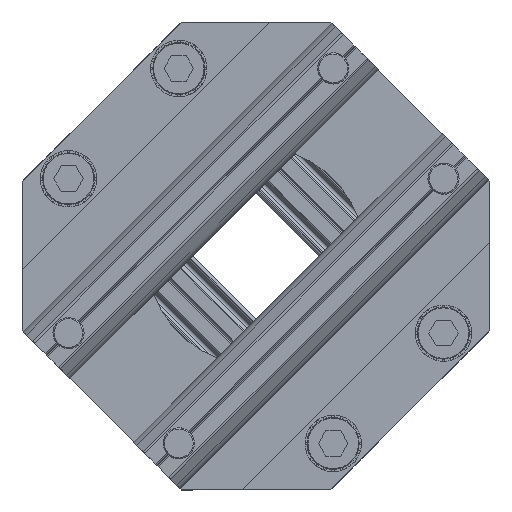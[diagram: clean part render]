
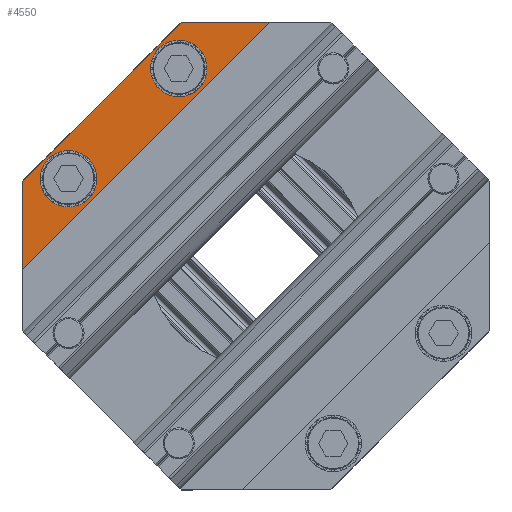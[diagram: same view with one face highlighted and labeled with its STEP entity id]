
A CAD part, top view. The second image highlights one B-rep face of the part: STEP entity #4550.
In plain terms, the highlighted planar face has unit normal (0, 0, 1).
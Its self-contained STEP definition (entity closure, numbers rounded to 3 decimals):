
#155 = FACE_OUTER_BOUND ( 'NONE', #4343, .T. ) ;
#446 = CARTESIAN_POINT ( 'NONE',  ( -117.318, 0., 30.129 ) ) ;
#472 = AXIS2_PLACEMENT_3D ( 'NONE', #6010, #9255, #8552 ) ;
#903 = ORIENTED_EDGE ( 'NONE', *, *, #1196, .T. ) ;
#916 = VERTEX_POINT ( 'NONE', #1202 ) ;
#927 = ORIENTED_EDGE ( 'NONE', *, *, #8289, .T. ) ;
#1196 = EDGE_CURVE ( 'NONE', #4296, #3895, #8376, .T. ) ;
#1202 = CARTESIAN_POINT ( 'NONE',  ( -117.318, 35.533, 30.129 ) ) ;
#1255 = ORIENTED_EDGE ( 'NONE', *, *, #4729, .T. ) ;
#1260 = EDGE_CURVE ( 'NONE', #4821, #1359, #8149, .T. ) ;
#1275 = DIRECTION ( 'NONE',  ( 0., 0., -1. ) ) ;
#1340 = EDGE_LOOP ( 'NONE', ( #927, #4663 ) ) ;
#1359 = VERTEX_POINT ( 'NONE', #4084 ) ;
#1398 = CARTESIAN_POINT ( 'NONE',  ( -77.673, 61.036, 30.129 ) ) ;
#1602 = EDGE_CURVE ( 'NONE', #916, #1359, #5089, .T. ) ;
#1701 = CARTESIAN_POINT ( 'NONE',  ( -112.42, 35.91, 30.129 ) ) ;
#1885 = FACE_BOUND ( 'NONE', #1340, .T. ) ;
#2214 = LINE ( 'NONE', #5494, #7918 ) ;
#2346 = VERTEX_POINT ( 'NONE', #4395 ) ;
#2725 = DIRECTION ( 'NONE',  ( 0., 0., -1. ) ) ;
#2804 = LINE ( 'NONE', #8560, #6520 ) ;
#2822 = CARTESIAN_POINT ( 'NONE',  ( -89.642, 53.588, 30.129 ) ) ;
#3062 = VERTEX_POINT ( 'NONE', #2822 ) ;
#3246 = EDGE_CURVE ( 'NONE', #3774, #916, #2804, .T. ) ;
#3369 = AXIS2_PLACEMENT_3D ( 'NONE', #3813, #2725, #5988 ) ;
#3424 = ORIENTED_EDGE ( 'NONE', *, *, #3246, .T. ) ;
#3717 = VECTOR ( 'NONE', #4300, 1000. ) ;
#3774 = VERTEX_POINT ( 'NONE', #6730 ) ;
#3813 = CARTESIAN_POINT ( 'NONE',  ( -109.87, 35.91, 30.129 ) ) ;
#3854 = AXIS2_PLACEMENT_3D ( 'NONE', #7459, #7716, #5860 ) ;
#3895 = VERTEX_POINT ( 'NONE', #7775 ) ;
#3936 = EDGE_CURVE ( 'NONE', #3895, #4296, #7462, .T. ) ;
#4084 = CARTESIAN_POINT ( 'NONE',  ( -117.318, 21.391, 30.129 ) ) ;
#4296 = VERTEX_POINT ( 'NONE', #1701 ) ;
#4300 = DIRECTION ( 'NONE',  ( -0.707, -0.707, 0. ) ) ;
#4343 = EDGE_LOOP ( 'NONE', ( #3424, #7492, #5060, #1255 ) ) ;
#4395 = CARTESIAN_POINT ( 'NONE',  ( -94.742, 53.588, 30.129 ) ) ;
#4550 = ADVANCED_FACE ( 'NONE', ( #5814, #1885, #155 ), #4809, .T. ) ;
#4663 = ORIENTED_EDGE ( 'NONE', *, *, #4780, .T. ) ;
#4729 = EDGE_CURVE ( 'NONE', #4821, #3774, #2214, .T. ) ;
#4780 = EDGE_CURVE ( 'NONE', #3062, #2346, #7675, .T. ) ;
#4809 = PLANE ( 'NONE',  #3854 ) ;
#4821 = VERTEX_POINT ( 'NONE', #1398 ) ;
#4862 = VECTOR ( 'NONE', #8666, 1000. ) ;
#5060 = ORIENTED_EDGE ( 'NONE', *, *, #1260, .F. ) ;
#5089 = LINE ( 'NONE', #446, #4862 ) ;
#5298 = DIRECTION ( 'NONE',  ( -1., 0., 0. ) ) ;
#5494 = CARTESIAN_POINT ( 'NONE',  ( 0., 61.036, 30.129 ) ) ;
#5660 = AXIS2_PLACEMENT_3D ( 'NONE', #8497, #8945, #5298 ) ;
#5684 = CARTESIAN_POINT ( 'NONE',  ( -92.192, 53.588, 30.129 ) ) ;
#5814 = FACE_BOUND ( 'NONE', #6118, .T. ) ;
#5860 = DIRECTION ( 'NONE',  ( 1., 0., 0. ) ) ;
#5988 = DIRECTION ( 'NONE',  ( -1., 0., 0. ) ) ;
#6010 = CARTESIAN_POINT ( 'NONE',  ( -109.87, 35.91, 30.129 ) ) ;
#6118 = EDGE_LOOP ( 'NONE', ( #903, #8653 ) ) ;
#6430 = DIRECTION ( 'NONE',  ( -1., 0., 0. ) ) ;
#6520 = VECTOR ( 'NONE', #9320, 1000. ) ;
#6730 = CARTESIAN_POINT ( 'NONE',  ( -91.815, 61.036, 30.129 ) ) ;
#6955 = DIRECTION ( 'NONE',  ( -1., 0., 0. ) ) ;
#7459 = CARTESIAN_POINT ( 'NONE',  ( 0., 0., 30.129 ) ) ;
#7462 = CIRCLE ( 'NONE', #472, 2.55 ) ;
#7492 = ORIENTED_EDGE ( 'NONE', *, *, #1602, .T. ) ;
#7675 = CIRCLE ( 'NONE', #5660, 2.55 ) ;
#7716 = DIRECTION ( 'NONE',  ( 0., 0., 1. ) ) ;
#7775 = CARTESIAN_POINT ( 'NONE',  ( -107.32, 35.91, 30.129 ) ) ;
#7879 = CIRCLE ( 'NONE', #8589, 2.55 ) ;
#7918 = VECTOR ( 'NONE', #6955, 1000. ) ;
#8149 = LINE ( 'NONE', #8698, #3717 ) ;
#8289 = EDGE_CURVE ( 'NONE', #2346, #3062, #7879, .T. ) ;
#8376 = CIRCLE ( 'NONE', #3369, 2.55 ) ;
#8497 = CARTESIAN_POINT ( 'NONE',  ( -92.192, 53.588, 30.129 ) ) ;
#8552 = DIRECTION ( 'NONE',  ( -1., 0., 0. ) ) ;
#8560 = CARTESIAN_POINT ( 'NONE',  ( -79.818, 73.033, 30.129 ) ) ;
#8589 = AXIS2_PLACEMENT_3D ( 'NONE', #5684, #1275, #6430 ) ;
#8653 = ORIENTED_EDGE ( 'NONE', *, *, #3936, .T. ) ;
#8666 = DIRECTION ( 'NONE',  ( 0., -1., 0. ) ) ;
#8698 = CARTESIAN_POINT ( 'NONE',  ( -69.354, 69.354, 30.129 ) ) ;
#8945 = DIRECTION ( 'NONE',  ( 0., 0., -1. ) ) ;
#9255 = DIRECTION ( 'NONE',  ( 0., 0., -1. ) ) ;
#9320 = DIRECTION ( 'NONE',  ( -0.707, -0.707, 0. ) ) ;
